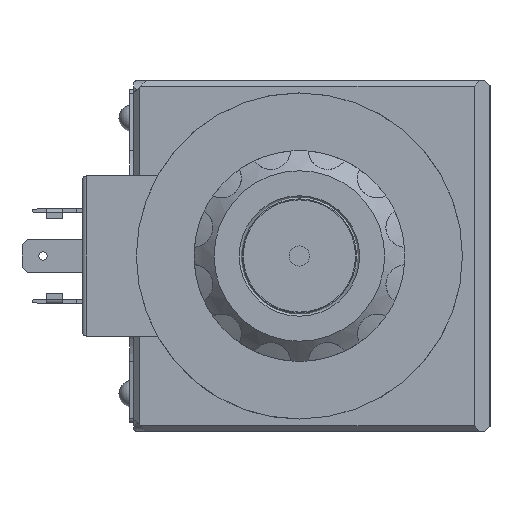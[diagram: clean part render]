
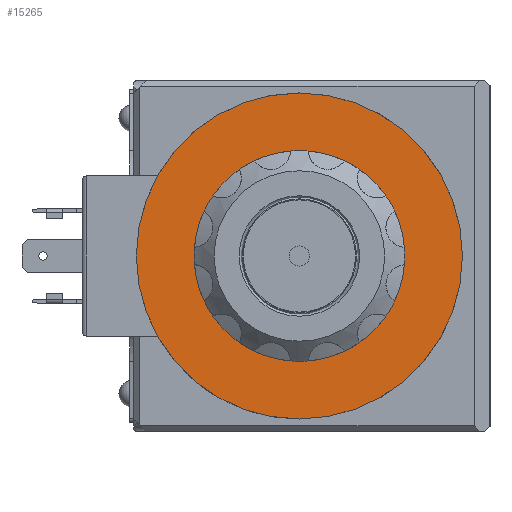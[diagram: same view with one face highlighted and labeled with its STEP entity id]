
A CAD part, left-side view. The second image highlights one B-rep face of the part: STEP entity #15265.
In plain terms, the highlighted planar face has unit normal (-1, 0, 0).
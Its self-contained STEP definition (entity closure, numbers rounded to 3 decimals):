
#522=CIRCLE('',#16185,32.5);
#523=CIRCLE('',#16186,15.65);
#1960=ORIENTED_EDGE('',*,*,#4603,.F.);
#1961=ORIENTED_EDGE('',*,*,#4604,.T.);
#4603=EDGE_CURVE('',#6048,#6048,#522,.T.);
#4604=EDGE_CURVE('',#6049,#6049,#523,.T.);
#6048=VERTEX_POINT('',#21645);
#6049=VERTEX_POINT('',#21647);
#9682=EDGE_LOOP('',(#1960));
#9683=EDGE_LOOP('',(#1961));
#10493=FACE_BOUND('',#9682,.T.);
#10494=FACE_BOUND('',#9683,.T.);
#11058=PLANE('',#16184);
#15265=ADVANCED_FACE('',(#10493,#10494),#11058,.F.);
#16184=AXIS2_PLACEMENT_3D('',#21643,#18131,#18132);
#16185=AXIS2_PLACEMENT_3D('',#21644,#18133,#18134);
#16186=AXIS2_PLACEMENT_3D('',#21646,#18135,#18136);
#18131=DIRECTION('',(1.,0.,0.));
#18132=DIRECTION('',(0.,0.,-1.));
#18133=DIRECTION('',(1.,0.,0.));
#18134=DIRECTION('',(0.,0.,-1.));
#18135=DIRECTION('',(1.,0.,0.));
#18136=DIRECTION('',(0.,0.,-1.));
#21643=CARTESIAN_POINT('',(0.,0.,0.));
#21644=CARTESIAN_POINT('',(0.,0.,0.));
#21645=CARTESIAN_POINT('',(0.,0.,-32.5));
#21646=CARTESIAN_POINT('',(0.,0.,0.));
#21647=CARTESIAN_POINT('',(0.,0.,-15.65));
